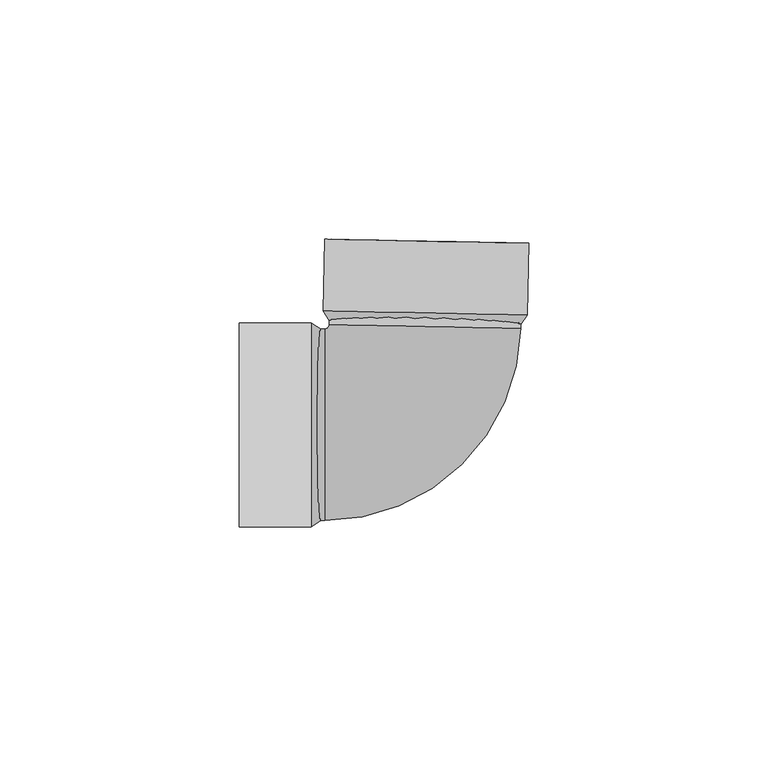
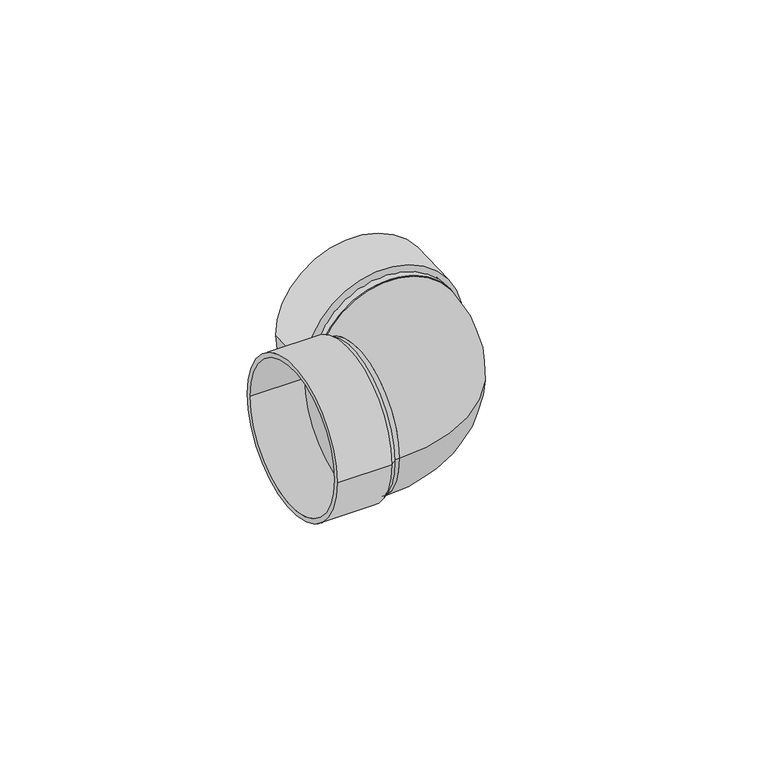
"""IFC4 building model written with IfcOpenShell, lengths in millimetres: pipe fitting geometry, Joelho 45_90 - Serie Normal - Esgoto : Joelho 45_90 - Serie Normal - Esgoto."""

from ifc_helpers import new_model, si_unit, point, frame, origin, origin_2d, place, context, project, spatial, polyline, circle_curve, ellipse_curve, trimmed, segment, composite_curve, outline, extrude, source, transform, mapped, element, save
from ifc_brep_helpers import plane_surface, cylinder_surface, revolved_surface, advanced_brep


def pipe_fitting_052252b0(model_context):
    return source(origin(), model_context, "Body", "SolidModel", [
        extrude(outline(composite_curve([segment(trimmed(circle_curve(origin_2d(), 20.0), [point((0.0, 20.0))], [point((0.0, -20.0))], False, "CARTESIAN"), True, "CONTINUOUS"), segment(trimmed(circle_curve(origin_2d(), 20.0), [point((0.0, -20.0))], [point((0.0, 20.0))], False, "CARTESIAN"), True, "CONTINUOUS")], self_intersect=False)), frame((0.4116017, 20.580084, 0.0), z_axis=(0.019996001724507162, 0.9998000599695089, 0.0), x_axis=(0.0, 0.0, 1.0)), (0.0, 0.0, 1.0), 2.8),
        extrude(outline(composite_curve([segment(trimmed(circle_curve(origin_2d(), 20.0), [point((-20.0, 0.0))], [point((20.0, 0.0))], False, "CARTESIAN"), True, "CONTINUOUS"), segment(trimmed(circle_curve(origin_2d(), 20.0), [point((20.0, 0.0))], [point((-20.0, 0.0))], False, "CARTESIAN"), True, "CONTINUOUS")], self_intersect=False)), frame((-23.3841996, 0.0, 0.0), z_axis=(1.0, 0.0, 0.0), x_axis=(0.0, 1.0, 0.0)), (0.0, 0.0, 1.0), 2.8),
        advanced_brep(
        [(-38.3841996, 21.3, 0.0), (-38.3841996, -21.3, 0.0), (-38.3841996, 20.0, 0.0), (-38.3841996, -20.0, 0.0), (-23.3841996, -20.0, 0.0), (-23.3841996, 20.0, 0.0), (-23.3841996, -21.3, 0.0), (-23.3841996, 21.3, 0.0), (-21.3841996, -20.0, 0.0), (-21.3841996, 20.0, 0.0), (-20.5841996, 20.0, 0.0), (-20.5841996, -20.0, 0.0), (-20.5841996, 0.0, 20.0), (-20.5841996, 0.0, -20.0), (20.4076029, 20.1801639, 0.0), (-19.5843995, 20.980004, 0.0)],
        [
            (0, 1, circle_curve(frame((-38.3841996, 0.0, 0.0), z_axis=(-1.0, 0.0, 0.0), x_axis=(0.0, -1.0, 0.0)), 21.3)),
            (1, 0, circle_curve(frame((-38.3841996, 0.0, 0.0), z_axis=(-1.0, 0.0, 0.0), x_axis=(0.0, -1.0, 0.0)), 21.3)),
            (2, 3, circle_curve(frame((-38.3841996, 0.0, 0.0), z_axis=(1.0, 0.0, 0.0), x_axis=(0.0, -1.0, 0.0)), 20.0)),
            (3, 2, circle_curve(frame((-38.3841996, 0.0, 0.0), z_axis=(1.0, 0.0, 0.0), x_axis=(0.0, -1.0, 0.0)), 20.0)),
            (3, 4),
            (4, 5, circle_curve(frame((-23.3841996, 0.0, 0.0), z_axis=(1.0, 0.0, 0.0), x_axis=(0.0, -1.0, 0.0)), 20.0)),
            (5, 2),
            (5, 4, circle_curve(frame((-23.3841996, 0.0, 0.0), z_axis=(1.0, 0.0, 0.0), x_axis=(0.0, -1.0, 0.0)), 20.0)),
            (1, 6),
            (6, 7, circle_curve(frame((-23.3841996, 0.0, 0.0), z_axis=(-1.0, 0.0, 0.0), x_axis=(0.0, -1.0, 0.0)), 21.3)),
            (7, 0),
            (7, 6, circle_curve(frame((-23.3841996, 0.0, 0.0), z_axis=(-1.0, 0.0, 0.0), x_axis=(0.0, -1.0, 0.0)), 21.3)),
            (8, 6),
            (7, 9),
            (9, 8, circle_curve(frame((-21.3841996, 0.0, 0.0), z_axis=(-1.0, 0.0, 0.0), x_axis=(0.0, 1.0, 0.0)), 20.0)),
            (8, 9, circle_curve(frame((-21.3841996, 0.0, 0.0), z_axis=(-1.0, 0.0, 0.0), x_axis=(0.0, -1.0, 0.0)), 20.0)),
            (10, 9),
            (8, 11),
            (11, 12, circle_curve(frame((-20.5841996, 0.0, 0.0), z_axis=(-1.0, 0.0, 0.0), x_axis=(0.0, -1.0, 0.0)), 20.0)),
            (12, 10, circle_curve(frame((-20.5841996, 0.0, 0.0), z_axis=(-1.0, 0.0, 0.0), x_axis=(0.0, -1.0, 0.0)), 20.0)),
            (10, 13, circle_curve(frame((-20.5841996, 0.0, 0.0), z_axis=(-1.0, 0.0, 0.0), x_axis=(0.0, -1.0, 0.0)), 20.0)),
            (13, 11, circle_curve(frame((-20.5841996, 0.0, 0.0), z_axis=(-1.0, 0.0, 0.0), x_axis=(0.0, -1.0, 0.0)), 20.0)),
            (14, 15, circle_curve(frame((0.4116017, 20.580084, 0.0), z_axis=(0.01999600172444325, 0.9998000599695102, 0.0), x_axis=(-0.9998000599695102, 0.01999600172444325, 0.0)), 20.0)),
            (15, 14, circle_curve(frame((0.4116017, 20.580084, 0.0), z_axis=(0.01999600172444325, 0.9998000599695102, 0.0), x_axis=(-0.9998000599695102, 0.01999600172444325, 0.0)), 20.0)),
            (15, 10, circle_curve(frame((-20.5841996, 21.0, 0.0), z_axis=(0.0, 0.0, -1.0), x_axis=(0.0, -1.0, 0.0)), 1.0)),
            (11, 14, circle_curve(frame((-20.5841996, 21.0, 0.0), z_axis=(0.0, 0.0, 1.0), x_axis=(0.0, -1.0, 0.0)), 41.0)),
        ],
        [
            plane_surface(frame((-38.3841996, 0.0, 0.0), z_axis=(-1.0, 0.0, 0.0), x_axis=(0.0, 0.0, 1.0))),
            revolved_surface(polyline([(-38.3841996, -20.0, 0.0), (-23.3841996, -20.0, 0.0)]), (-23.3841996, 0.0, 0.0), (-1.0, 0.0, 0.0)),
            cylinder_surface(frame((-23.3841996, 0.0, 0.0), z_axis=(1.0, 0.0, 0.0), x_axis=(0.0, -1.0, 0.0)), 21.3),
            plane_surface(frame((-23.3841996, 0.0, 0.0), z_axis=(-1.0, 0.0, 0.0), x_axis=(0.0, 0.0, -1.0))),
            revolved_surface(polyline([(-21.3841996, -20.000000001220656, 0.0), (-23.384199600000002, -21.3, 0.0)]), (9.3850312, 0.0, 0.0), (-1.0, 0.0, 0.0)),
            cylinder_surface(frame((-20.5841996, 0.0, 0.0), z_axis=(1.0, 0.0, 0.0), x_axis=(0.0, -1.0, 0.0)), 20.0),
            plane_surface(frame((0.4116017, 20.580084, 0.0), z_axis=(0.01999600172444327, 0.9998000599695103, 0.0), x_axis=(0.0, 0.0, 1.0))),
            revolved_surface(trimmed(ellipse_curve(frame((-20.5841996, 0.0, 0.0), z_axis=(-1.0, 0.0, 0.0), x_axis=(0.0, 1.0, 0.0)), 20.0, 20.0), [point((-20.5841996, -20.0, 0.0))], [point((-20.5841996, 20.0, 0.0))], True, "CARTESIAN"), (-20.5841996, 21.0, 0.0), (0.0, 0.0, 1.0)),
            revolved_surface(trimmed(ellipse_curve(frame((-20.5841996, 0.0, 0.0), z_axis=(-1.0, 0.0, 0.0), x_axis=(0.0, 1.0, 0.0)), 20.0, 20.0), [point((-20.5841996, 20.0, 0.0))], [point((-20.5841996, -20.0, 0.0))], True, "CARTESIAN"), (-20.5841996, 21.0, 0.0), (0.0, 0.0, 1.0)),
        ],
        [
            (0, [[1, 2], [3, 4]]),
            (1, [[-4, 5, 6, 7]]),
            (1, [[-3, -7, 8, -5]]),
            (2, [[-2, 9, 10, 11]]),
            (2, [[-1, -11, 12, -9]]),
            (3, [[-6, -8]]),
            (4, [[13, -12, 14, 15]]),
            (4, [[-13, 16, -14, -10]]),
            (5, [[17, -16, 18, 19, 20]]),
            (5, [[-17, 21, 22, -18, -15]]),
            (6, [[23, 24]]),
            (7, [[-24, 25, -20, -19, 26]]),
            (8, [[-23, -26, -22, -21, -25]]),
        ],
    ),
        advanced_brep(
        [(20.4635917, 22.9796041, 0.0), (-19.5284107, 23.7794442, 0.0), (-19.5684027, 21.779844, 0.0), (-20.8281508, 23.805439, 0.0), (21.7633318, 22.9536093, 0.0), (20.4235997, 20.980004, 0.0), (22.0632718, 37.9506102, 0.0), (-20.5282108, 38.8024399, 0.0), (20.7635317, 37.976605, 0.0), (-19.2284707, 38.7764451, 0.0), (20.4076029, 20.1801639, 0.0), (-19.5843995, 20.980004, 0.0), (0.4116017, 20.580084, 20.0), (0.4116017, 20.580084, -20.0), (-20.5841996, -20.0, 0.0), (-20.5841996, 20.0, 0.0)],
        [
            (0, 1, circle_curve(frame((0.4675905, 23.3795241, 0.0), z_axis=(0.019996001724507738, 0.9998000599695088, 0.0), x_axis=(-0.9998000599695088, 0.019996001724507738, 0.0)), 20.0)),
            (1, 0, circle_curve(frame((0.4675905, 23.3795241, 0.0), z_axis=(0.019996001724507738, 0.9998000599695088, 0.0), x_axis=(-0.9998000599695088, 0.019996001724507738, 0.0)), 20.0)),
            (2, 3),
            (3, 4, circle_curve(frame((0.4675905, 23.3795241, 0.0), z_axis=(-0.019996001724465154, -0.9998000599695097, 0.0), x_axis=(0.9998000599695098, -0.019996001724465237, 0.0)), 21.3)),
            (4, 5),
            (5, 2, circle_curve(frame((0.4275985, 21.379924, 0.0), z_axis=(0.019996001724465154, 0.9998000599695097, 0.0), x_axis=(0.9998000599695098, -0.019996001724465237, 0.0)), 20.0)),
            (2, 5, circle_curve(frame((0.4275985, 21.379924, 0.0), z_axis=(0.019996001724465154, 0.9998000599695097, 0.0), x_axis=(-0.9998000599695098, 0.0199960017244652, 0.0)), 20.0)),
            (4, 3, circle_curve(frame((0.4675905, 23.3795241, 0.0), z_axis=(-0.019996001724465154, -0.9998000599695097, 0.0), x_axis=(-0.9998000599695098, 0.0199960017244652, 0.0)), 21.3)),
            (6, 7, circle_curve(frame((0.7675305, 38.376525, 0.0), z_axis=(0.019996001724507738, 0.9998000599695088, 0.0), x_axis=(-0.9998000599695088, 0.019996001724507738, 0.0)), 21.3)),
            (7, 6, circle_curve(frame((0.7675305, 38.376525, 0.0), z_axis=(0.019996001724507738, 0.9998000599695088, 0.0), x_axis=(-0.9998000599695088, 0.019996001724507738, 0.0)), 21.3)),
            (8, 9, circle_curve(frame((0.7675305, 38.376525, 0.0), z_axis=(-0.019996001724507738, -0.9998000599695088, 0.0), x_axis=(-0.9998000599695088, 0.019996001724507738, 0.0)), 20.0)),
            (9, 8, circle_curve(frame((0.7675305, 38.376525, 0.0), z_axis=(-0.019996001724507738, -0.9998000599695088, 0.0), x_axis=(-0.9998000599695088, 0.019996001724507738, 0.0)), 20.0)),
            (7, 3),
            (4, 6),
            (9, 1),
            (0, 8),
            (10, 5),
            (2, 11),
            (11, 12, circle_curve(frame((0.4116017, 20.580084, 0.0), z_axis=(0.01999600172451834, 0.9998000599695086, 0.0), x_axis=(-0.9998000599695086, 0.01999600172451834, 0.0)), 20.0)),
            (12, 10, circle_curve(frame((0.4116017, 20.580084, 0.0), z_axis=(0.01999600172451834, 0.9998000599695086, 0.0), x_axis=(-0.9998000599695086, 0.01999600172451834, 0.0)), 20.0)),
            (10, 13, circle_curve(frame((0.4116017, 20.580084, 0.0), z_axis=(0.01999600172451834, 0.9998000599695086, 0.0), x_axis=(-0.9998000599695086, 0.01999600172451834, 0.0)), 20.0)),
            (13, 11, circle_curve(frame((0.4116017, 20.580084, 0.0), z_axis=(0.01999600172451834, 0.9998000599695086, 0.0), x_axis=(-0.9998000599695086, 0.01999600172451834, 0.0)), 20.0)),
            (14, 15, circle_curve(frame((-20.5841996, 0.0, 0.0), z_axis=(-1.0, 0.0, 0.0), x_axis=(0.0, 1.0, 0.0)), 20.0)),
            (15, 14, circle_curve(frame((-20.5841996, 0.0, 0.0), z_axis=(-1.0, 0.0, 0.0), x_axis=(0.0, 1.0, 0.0)), 20.0)),
            (14, 10, circle_curve(frame((-20.5841996, 21.0, 0.0), z_axis=(0.0, 0.0, 1.0), x_axis=(0.0, -1.0, 0.0)), 41.0)),
            (11, 15, circle_curve(frame((-20.5841996, 21.0, 0.0), z_axis=(0.0, 0.0, -1.0), x_axis=(0.0, -1.0, 0.0)), 1.0)),
        ],
        [
            plane_surface(frame((0.4675905, 23.3795241, 0.0), z_axis=(0.01999600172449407, 0.9998000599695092, 0.0), x_axis=(0.0, 0.0, -1.0))),
            revolved_surface(polyline([(-19.568402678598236, 21.77984399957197, 0.0), (-20.8281508, 23.805439, 0.0)]), (-0.1876631, -9.3831548, 0.0), (0.019996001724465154, 0.9998000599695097, 0.0)),
            plane_surface(frame((0.7675305, 38.376525, 0.0), z_axis=(0.019996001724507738, 0.9998000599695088, 0.0), x_axis=(0.0, 0.0, 1.0))),
            cylinder_surface(frame((0.4675905, 23.3795241, 0.0), z_axis=(-0.019996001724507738, -0.9998000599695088, 0.0), x_axis=(-0.9998000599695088, 0.019996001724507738, 0.0)), 21.3),
            revolved_surface(polyline([(-19.22847067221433, 38.77644509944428, 0.0), (-19.528410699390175, 23.779444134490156, 0.0)]), (0.4675905, 23.3795241, 0.0), (0.019996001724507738, 0.9998000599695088, 0.0)),
            cylinder_surface(frame((0.4116017, 20.580084, 0.0), z_axis=(-0.01999600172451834, -0.9998000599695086, 0.0), x_axis=(-0.9998000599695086, 0.01999600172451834, 0.0)), 20.0),
            plane_surface(frame((-20.5841996, 0.0, 0.0), z_axis=(-1.0, 0.0, 0.0), x_axis=(0.0, 0.0, 1.0))),
            revolved_surface(trimmed(ellipse_curve(frame((-20.5841996, 0.0, 0.0), z_axis=(-1.0, 0.0, 0.0), x_axis=(0.0, 1.0, 0.0)), 20.0, 20.0), [point((-20.5841996, -20.0, 0.0))], [point((-20.5841996, 20.0, 0.0))], True, "CARTESIAN"), (-20.5841996, 21.0, 0.0), (0.0, 0.0, 1.0)),
            revolved_surface(trimmed(ellipse_curve(frame((-20.5841996, 0.0, 0.0), z_axis=(-1.0, 0.0, 0.0), x_axis=(0.0, 1.0, 0.0)), 20.0, 20.0), [point((-20.5841996, 20.0, 0.0))], [point((-20.5841996, -20.0, 0.0))], True, "CARTESIAN"), (-20.5841996, 21.0, 0.0), (0.0, 0.0, 1.0)),
        ],
        [
            (0, [[1, 2]]),
            (1, [[3, 4, 5, 6]]),
            (1, [[-3, 7, -5, 8]]),
            (2, [[9, 10], [11, 12]]),
            (3, [[-10, 13, -8, 14]]),
            (3, [[-9, -14, -4, -13]]),
            (4, [[-12, 15, -1, 16]]),
            (4, [[-11, -16, -2, -15]]),
            (5, [[17, -7, 18, 19, 20]]),
            (5, [[-17, 21, 22, -18, -6]]),
            (6, [[23, 24]]),
            (7, [[-23, 25, -20, -19, 26]]),
            (8, [[-24, -26, -22, -21, -25]]),
        ],
    ),
    ])


if __name__ == "__main__":
    model = new_model("IFC4")
    model_context = context("Model", 3, world=origin())
    ifc_project = project(units=[si_unit("LENGTHUNIT", "METRE", prefix="MILLI")], contexts=[model_context])
    site = spatial("IfcSite", under=ifc_project)
    building = spatial("IfcBuilding", under=site)
    placement = place(None, origin())
    pipe_fitting_shape = pipe_fitting_052252b0(model_context)
    element("IfcPipeFitting", 1, ObjectType="Joelho 45_90 - Serie Normal - Esgoto : Joelho 45_90 - Serie Normal - Esgoto", at=placement, inside=building, context=model_context, shape_type="MappedRepresentation", body=[
        mapped(pipe_fitting_shape, transform((0.0, 0.0, 0.0), x_axis=(1.0, 0.0, 0.0), y_axis=(0.0, 1.0, 0.0), z_axis=(0.0, 0.0, 1.0))),
    ])
    save(model, "model.ifc")
